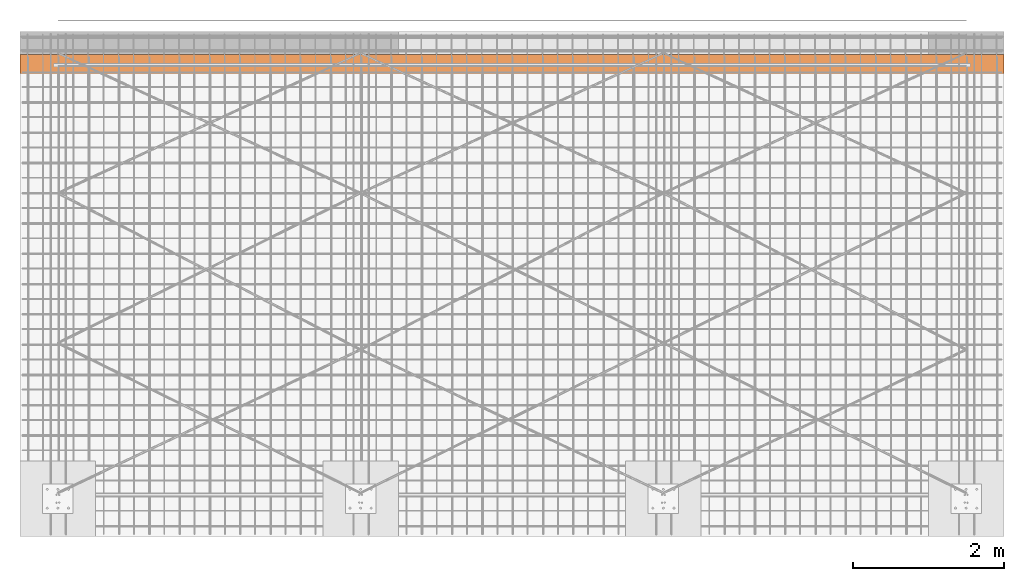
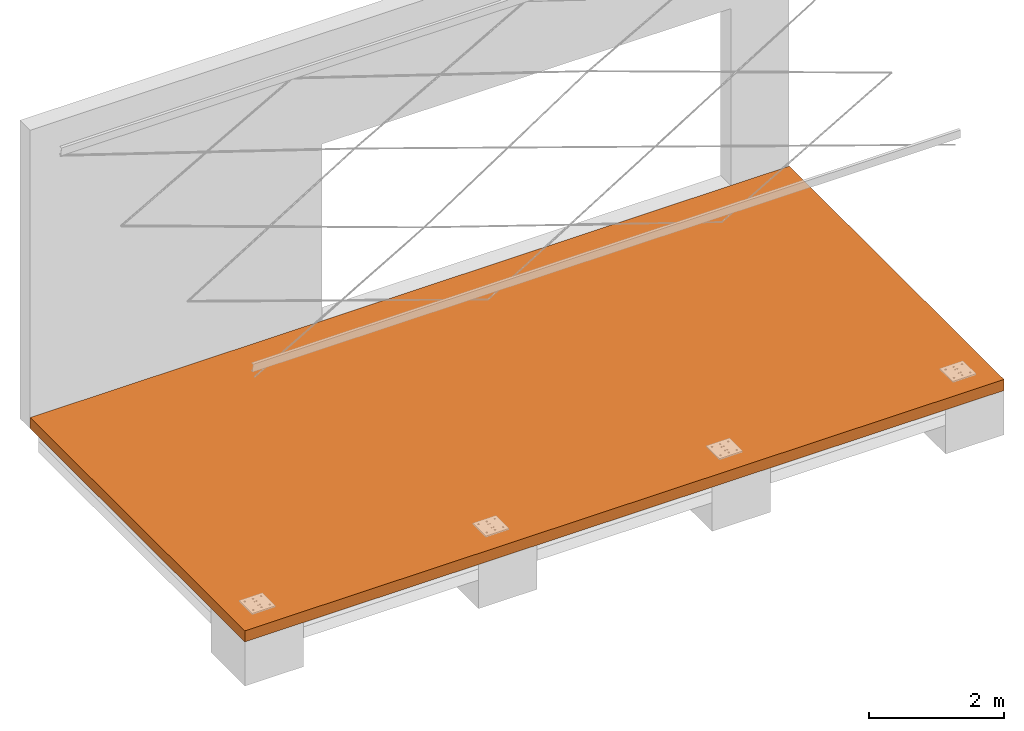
# One storey, part 8 of 8: 1 proxy.
"""IFC4X3_ADD2 building model written with IfcOpenShell, lengths in millimetres."""

from ifc_helpers import new_model, entity, si_unit, converted_unit, derived_unit, direction, frame, origin, origin_2d_with_axis, place, context, subcontext, project, spatial, rectangle, extrude, material, layer, layer_set, layer_usage, element, save


model = new_model("IFC4X3_ADD2")

# Units and contexts
model_context = context("Model", 3, precision=0.01, world=origin(), true_north=direction((6.123233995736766e-17, 1.0)))
plan_context = context("Plan", 3, precision=0.01, world=origin(), true_north=direction((6.123233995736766e-17, 1.0)))
body_context = subcontext(model_context, "Body", "Model", "MODEL_VIEW")
ifc_project = project(units=[si_unit("LENGTHUNIT", "METRE", prefix="MILLI"), converted_unit("PLANEANGLEUNIT", "DEGREE", entity("IfcPlaneAngleMeasure", 0.017453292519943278), si_unit("PLANEANGLEUNIT", "RADIAN"), dimensions=[0, 0, 0, 0, 0, 0, 0]), si_unit("AREAUNIT", "SQUARE_METRE"), si_unit("VOLUMEUNIT", "CUBIC_METRE"), derived_unit("THERMALTRANSMITTANCEUNIT", [(si_unit("MASSUNIT", "GRAM", prefix="KILO"), 1), (si_unit("THERMODYNAMICTEMPERATUREUNIT", "KELVIN"), -1), (si_unit("TIMEUNIT", "SECOND"), -3)]), derived_unit("USERDEFINED", [(si_unit("MASSUNIT", "GRAM", prefix="KILO"), 1), (si_unit("THERMODYNAMICTEMPERATUREUNIT", "KELVIN"), -1), (si_unit("TIMEUNIT", "SECOND"), -2)]), derived_unit("THERMALRESISTANCEUNIT", [(si_unit("MASSUNIT", "GRAM", prefix="KILO"), -1), (si_unit("TIMEUNIT", "SECOND"), 3), (si_unit("THERMODYNAMICTEMPERATUREUNIT", "KELVIN"), 1)]), si_unit("MASSUNIT", "GRAM", prefix="KILO"), derived_unit("MOMENTOFINERTIAUNIT", [(si_unit("LENGTHUNIT", "METRE"), 4)]), derived_unit("LINEARFORCEUNIT", [(si_unit("MASSUNIT", "GRAM", prefix="KILO"), 1), (si_unit("TIMEUNIT", "SECOND"), -2)]), derived_unit("WARPINGCONSTANTUNIT", [(si_unit("LENGTHUNIT", "METRE"), 6)]), si_unit("PRESSUREUNIT", "PASCAL"), derived_unit("MASSDENSITYUNIT", [(si_unit("MASSUNIT", "GRAM", prefix="KILO"), 1), (si_unit("LENGTHUNIT", "METRE"), -3)]), derived_unit("MODULUSOFELASTICITYUNIT", [(si_unit("MASSUNIT", "GRAM", prefix="KILO"), 1), (si_unit("TIMEUNIT", "SECOND"), -2), (si_unit("LENGTHUNIT", "METRE"), -1)]), derived_unit("THERMALEXPANSIONCOEFFICIENTUNIT", [(si_unit("THERMODYNAMICTEMPERATUREUNIT", "KELVIN"), -1)]), derived_unit("VAPORPERMEABILITYUNIT", [(si_unit("LENGTHUNIT", "METRE"), -1), (si_unit("TIMEUNIT", "SECOND"), 1)]), derived_unit("USERDEFINED", [(si_unit("MASSUNIT", "GRAM", prefix="KILO"), 1), (si_unit("TIMEUNIT", "SECOND"), -3), (si_unit("LENGTHUNIT", "METRE"), 3), (si_unit("ELECTRICCURRENTUNIT", "AMPERE"), -2)]), derived_unit("SPECIFICHEATCAPACITYUNIT", [(si_unit("THERMODYNAMICTEMPERATUREUNIT", "KELVIN"), -1), (si_unit("TIMEUNIT", "SECOND"), -2), (si_unit("LENGTHUNIT", "METRE"), 2)]), derived_unit("THERMALCONDUCTANCEUNIT", [(si_unit("MASSUNIT", "GRAM", prefix="KILO"), 1), (si_unit("THERMODYNAMICTEMPERATUREUNIT", "KELVIN"), -1), (si_unit("TIMEUNIT", "SECOND"), -3), (si_unit("LENGTHUNIT", "METRE"), 1)])], contexts=[model_context, plan_context])

# Site, building, storey
site_placement = place(None, origin())
site = spatial("IfcSite", under=ifc_project, at=site_placement, Name="Default", CompositionType="ELEMENT")
building_placement = place(site_placement, origin())
building = spatial("IfcBuilding", under=site, at=building_placement, Name="Complex structure", CompositionType="ELEMENT")
storey_placement = place(building_placement, frame((0.0, 0.0, -400.0)))
storey = spatial("IfcBuildingStorey", under=building, at=storey_placement, Name="Level -02", CompositionType="ELEMENT", Elevation=-400.0)

# Proxy
ifc_material = material(Name="Concrete, Cast In Situ", Category="Concrete")
ifc_layer = layer(ifc_material, 200.0, Name="Concrete, Cast In Situ", Category="Concrete")
ifc_layer_set = layer_set([ifc_layer], Name="Foundation Slab:Foundation Slab 200mm")
ifc_layer_usage = layer_usage(ifc_layer_set, "AXIS3", "POSITIVE", 0.0)
proxy_placement = place(storey_placement, origin())
element("IfcBuildingElementProxy", 1, at=proxy_placement, inside=storey, material=ifc_layer_usage, Name="Foundation Slab:Foundation Slab 200mm", ObjectType="Foundation Slab:Foundation Slab 200mm", PredefinedType="NOTDEFINED", context=body_context, shape_type="SweptSolid", body=[
    extrude(rectangle(XDim=6370.000000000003, YDim=12999.999999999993, at=origin_2d_with_axis()), frame((-7145.221550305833, 1402.133296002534, 200.0), z_axis=(0.0, 0.0, -1.0), x_axis=(0.0, 1.0, 0.0)), (0.0, 0.0, 1.0), 200.0),
])

save(model, "model.ifc")
